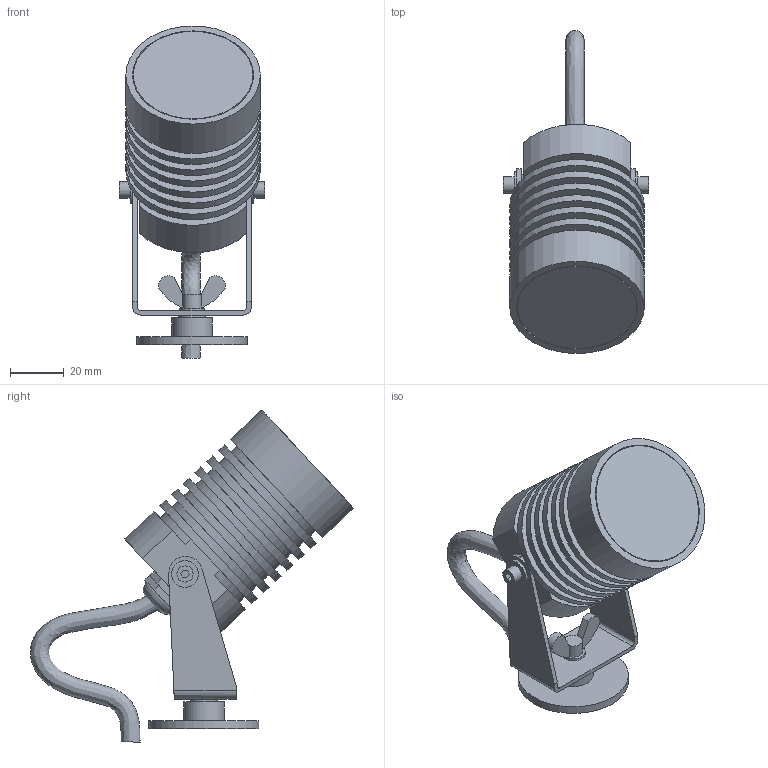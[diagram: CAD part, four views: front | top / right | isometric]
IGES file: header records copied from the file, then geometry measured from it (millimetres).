
Start section: SolidWorks IGES file using analytic representation for surfaces
Global section: file name: X:\PRODUKT\Modele 3D_WWW\_KOLEKCJE WWW\SPIKE\SPIKE-LED-M-9100\SPIKE-LED-M-9100.IGS; native system: SolidWorks 2021; preprocessor: SolidWorks 2021; author: gabriela.tworek; date: 220628.133313; units: millimetre
Bounding box: 54 x 120.22 x 123.46 mm (x, y, z)
Surface area: 51828.6 mm2 (no closed solid volume)
Topology: 0 solids, 0 shells, 196 faces, 713 edges, 661 vertices
Faces by surface type: bspline 129, revolution 67
